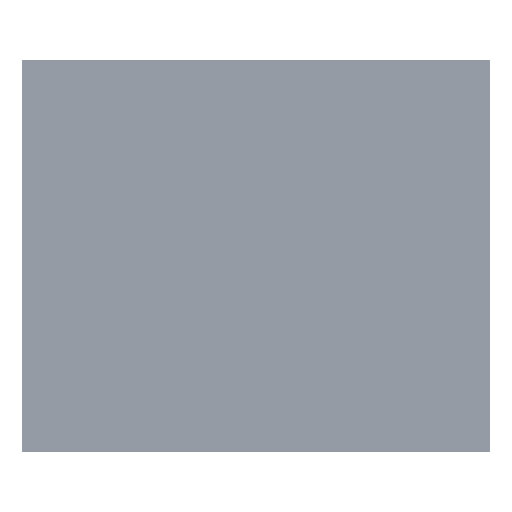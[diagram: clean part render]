
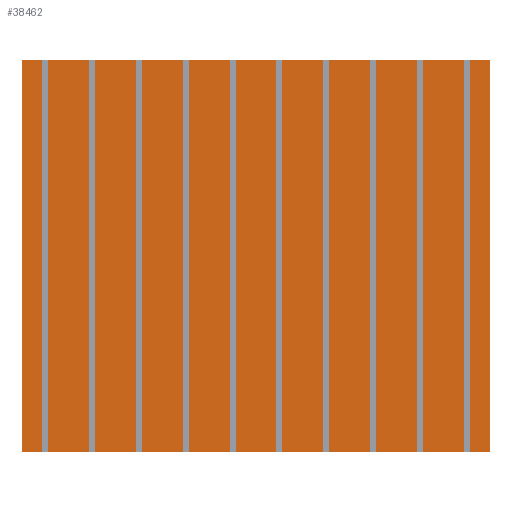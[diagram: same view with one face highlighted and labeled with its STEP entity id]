
A CAD part, front view. The second image highlights one B-rep face of the part: STEP entity #38462.
In plain terms, the highlighted planar face has unit normal (0, -1, 0) as drawn and (0, 0, 1) by its records, which use the part's own axes.
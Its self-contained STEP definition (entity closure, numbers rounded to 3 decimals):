
#4216=FACE_OUTER_BOUND('',#6352,.T.);
#6352=EDGE_LOOP('',(#26115,#26116,#26117,#26118));
#8528=LINE('',#55360,#12736);
#8532=LINE('',#55368,#12740);
#8535=LINE('',#55374,#12743);
#8538=LINE('',#55379,#12746);
#12736=VECTOR('',#44618,10.);
#12740=VECTOR('',#44624,10.);
#12743=VECTOR('',#44629,10.);
#12746=VECTOR('',#44634,10.);
#16944=VERTEX_POINT('',#55358);
#16945=VERTEX_POINT('',#55359);
#16948=VERTEX_POINT('',#55367);
#16950=VERTEX_POINT('',#55373);
#20497=EDGE_CURVE('',#16944,#16945,#8528,.T.);
#20501=EDGE_CURVE('',#16945,#16948,#8532,.T.);
#20504=EDGE_CURVE('',#16948,#16950,#8535,.T.);
#20507=EDGE_CURVE('',#16950,#16944,#8538,.T.);
#26115=ORIENTED_EDGE('',*,*,#20497,.F.);
#26116=ORIENTED_EDGE('',*,*,#20507,.F.);
#26117=ORIENTED_EDGE('',*,*,#20504,.F.);
#26118=ORIENTED_EDGE('',*,*,#20501,.F.);
#37307=PLANE('',#41349);
#38462=ADVANCED_FACE('',(#4216),#37307,.T.);
#41349=AXIS2_PLACEMENT_3D('',#55381,#44636,#44637);
#44618=DIRECTION('',(0.,1.,0.));
#44624=DIRECTION('',(1.,0.,0.));
#44629=DIRECTION('',(0.,-1.,0.));
#44634=DIRECTION('',(-1.,0.,0.));
#44636=DIRECTION('center_axis',(0.,0.,1.));
#44637=DIRECTION('ref_axis',(1.,0.,0.));
#55358=CARTESIAN_POINT('',(-6230.,0.,3.));
#55359=CARTESIAN_POINT('',(-6230.,5219.,3.));
#55360=CARTESIAN_POINT('',(-6230.,0.,3.));
#55367=CARTESIAN_POINT('',(0.,5219.,3.));
#55368=CARTESIAN_POINT('',(-6230.,5219.,3.));
#55373=CARTESIAN_POINT('',(0.,0.,3.));
#55374=CARTESIAN_POINT('',(0.,5219.,3.));
#55379=CARTESIAN_POINT('',(0.,0.,3.));
#55381=CARTESIAN_POINT('Origin',(-3115.,2609.5,3.));
